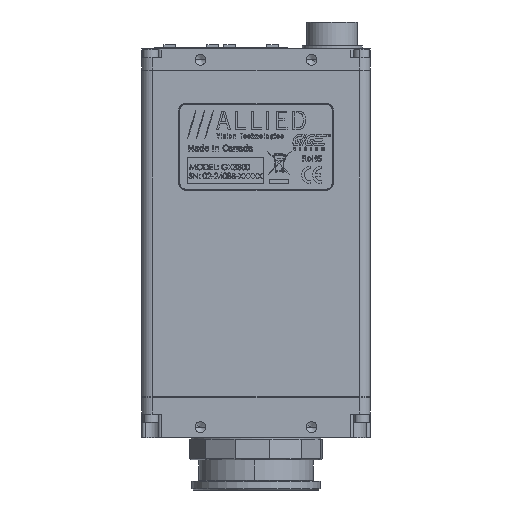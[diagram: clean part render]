
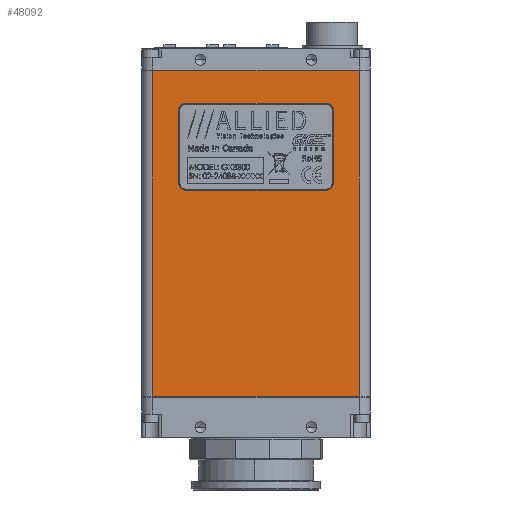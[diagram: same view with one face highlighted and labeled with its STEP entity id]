
A CAD part, front view. The second image highlights one B-rep face of the part: STEP entity #48092.
In plain terms, the highlighted planar face has unit normal (0, -1, 0).
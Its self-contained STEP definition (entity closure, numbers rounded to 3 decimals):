
#2313 = LINE ( 'NONE', #178587, #91215 ) ;
#5317 = CARTESIAN_POINT ( 'NONE',  ( -18.034, -10.16, 28.893 ) ) ;
#5537 = EDGE_CURVE ( 'NONE', #165829, #40818, #207919, .T. ) ;
#5722 = DIRECTION ( 'NONE',  ( 0., 0., 1. ) ) ;
#6026 = ORIENTED_EDGE ( 'NONE', *, *, #111384, .T. ) ;
#8346 = DIRECTION ( 'NONE',  ( 0., 1., 0. ) ) ;
#9512 = EDGE_CURVE ( 'NONE', #211888, #41053, #110659, .T. ) ;
#10659 = CARTESIAN_POINT ( 'NONE',  ( 24.13, -10.16, 38.1 ) ) ;
#12215 = EDGE_LOOP ( 'NONE', ( #6026, #124005, #27452, #200185, #62209, #182395, #167118, #90893 ) ) ;
#13330 = CARTESIAN_POINT ( 'NONE',  ( 24.13, -10.16, -92.399 ) ) ;
#19308 = FACE_OUTER_BOUND ( 'NONE', #89035, .T. ) ;
#24024 = CIRCLE ( 'NONE', #51829, 1.587 ) ;
#24566 = LINE ( 'NONE', #76755, #113370 ) ;
#27114 = AXIS2_PLACEMENT_3D ( 'NONE', #68994, #185676, #85811 ) ;
#27452 = ORIENTED_EDGE ( 'NONE', *, *, #166122, .T. ) ;
#30177 = DIRECTION ( 'NONE',  ( 1., 0., 0. ) ) ;
#36132 = VECTOR ( 'NONE', #77805, 1000. ) ;
#36245 = CARTESIAN_POINT ( 'NONE',  ( -18.034, -10.16, 11.748 ) ) ;
#36857 = DIRECTION ( 'NONE',  ( 0., 1., 0. ) ) ;
#37773 = CIRCLE ( 'NONE', #27114, 1.587 ) ;
#37884 = ORIENTED_EDGE ( 'NONE', *, *, #9512, .T. ) ;
#39915 = ORIENTED_EDGE ( 'NONE', *, *, #189407, .T. ) ;
#40818 = VERTEX_POINT ( 'NONE', #5317 ) ;
#41053 = VERTEX_POINT ( 'NONE', #113350 ) ;
#41368 = CARTESIAN_POINT ( 'NONE',  ( 24.13, -10.16, -38.1 ) ) ;
#43018 = EDGE_CURVE ( 'NONE', #192965, #210902, #2313, .T. ) ;
#43306 = EDGE_CURVE ( 'NONE', #96098, #182275, #64813, .T. ) ;
#44751 = EDGE_CURVE ( 'NONE', #215147, #165829, #37773, .T. ) ;
#48092 = ADVANCED_FACE ( 'NONE', ( #19308, #191662 ), #63051, .T. ) ;
#51829 = AXIS2_PLACEMENT_3D ( 'NONE', #108445, #8346, #125206 ) ;
#56958 = CARTESIAN_POINT ( 'NONE',  ( 24.13, -10.16, -38.1 ) ) ;
#60885 = EDGE_CURVE ( 'NONE', #159336, #96098, #149125, .T. ) ;
#62209 = ORIENTED_EDGE ( 'NONE', *, *, #43306, .T. ) ;
#63051 = PLANE ( 'NONE',  #118865 ) ;
#64813 = CIRCLE ( 'NONE', #116340, 1.587 ) ;
#68994 = CARTESIAN_POINT ( 'NONE',  ( -16.447, -10.16, 11.748 ) ) ;
#74791 = VECTOR ( 'NONE', #5722, 1000. ) ;
#76755 = CARTESIAN_POINT ( 'NONE',  ( 24.13, -10.16, -92.399 ) ) ;
#76869 = CARTESIAN_POINT ( 'NONE',  ( -16.447, -10.16, 28.893 ) ) ;
#77805 = DIRECTION ( 'NONE',  ( -1., 0., 0. ) ) ;
#77905 = DIRECTION ( 'NONE',  ( 1., 0., 0. ) ) ;
#85811 = DIRECTION ( 'NONE',  ( 1., 0., 0. ) ) ;
#89035 = EDGE_LOOP ( 'NONE', ( #37884, #39915, #99380, #133704 ) ) ;
#89123 = CARTESIAN_POINT ( 'NONE',  ( -24.13, -10.16, -92.399 ) ) ;
#90893 = ORIENTED_EDGE ( 'NONE', *, *, #5537, .T. ) ;
#91215 = VECTOR ( 'NONE', #77905, 1000. ) ;
#93682 = DIRECTION ( 'NONE',  ( 1., 0., 0. ) ) ;
#95231 = VERTEX_POINT ( 'NONE', #115427 ) ;
#96098 = VERTEX_POINT ( 'NONE', #215666 ) ;
#99121 = CARTESIAN_POINT ( 'NONE',  ( 16.447, -10.16, 10.16 ) ) ;
#99380 = ORIENTED_EDGE ( 'NONE', *, *, #109402, .T. ) ;
#104793 = VECTOR ( 'NONE', #195851, 1000. ) ;
#108445 = CARTESIAN_POINT ( 'NONE',  ( 16.447, -10.16, 28.893 ) ) ;
#109402 = EDGE_CURVE ( 'NONE', #95231, #164504, #120492, .T. ) ;
#110659 = LINE ( 'NONE', #202672, #154980 ) ;
#111384 = EDGE_CURVE ( 'NONE', #40818, #192965, #215995, .T. ) ;
#113350 = CARTESIAN_POINT ( 'NONE',  ( -24.13, -10.16, 38.1 ) ) ;
#113370 = VECTOR ( 'NONE', #193533, 1000. ) ;
#113870 = LINE ( 'NONE', #89123, #158173 ) ;
#115427 = CARTESIAN_POINT ( 'NONE',  ( -24.13, -10.16, -38.1 ) ) ;
#116340 = AXIS2_PLACEMENT_3D ( 'NONE', #136846, #36857, #153585 ) ;
#117338 = EDGE_CURVE ( 'NONE', #164504, #211888, #24566, .T. ) ;
#118865 = AXIS2_PLACEMENT_3D ( 'NONE', #13330, #130199, #30177 ) ;
#120492 = LINE ( 'NONE', #56958, #164898 ) ;
#121966 = CARTESIAN_POINT ( 'NONE',  ( -16.447, -10.16, 30.48 ) ) ;
#124005 = ORIENTED_EDGE ( 'NONE', *, *, #43018, .T. ) ;
#125206 = DIRECTION ( 'NONE',  ( 1., 0., 0. ) ) ;
#130199 = DIRECTION ( 'NONE',  ( 0., -1., 0. ) ) ;
#133704 = ORIENTED_EDGE ( 'NONE', *, *, #117338, .T. ) ;
#136846 = CARTESIAN_POINT ( 'NONE',  ( 16.447, -10.16, 11.748 ) ) ;
#149125 = LINE ( 'NONE', #212589, #104793 ) ;
#152336 = DIRECTION ( 'NONE',  ( -1., 0., 0. ) ) ;
#153038 = EDGE_CURVE ( 'NONE', #182275, #215147, #164088, .T. ) ;
#153585 = DIRECTION ( 'NONE',  ( 1., 0., 0. ) ) ;
#154980 = VECTOR ( 'NONE', #152336, 1000. ) ;
#156888 = DIRECTION ( 'NONE',  ( 1., 0., 0. ) ) ;
#158173 = VECTOR ( 'NONE', #189040, 1000. ) ;
#158525 = AXIS2_PLACEMENT_3D ( 'NONE', #76869, #193652, #93682 ) ;
#159336 = VERTEX_POINT ( 'NONE', #188667 ) ;
#164088 = LINE ( 'NONE', #177743, #36132 ) ;
#164504 = VERTEX_POINT ( 'NONE', #41368 ) ;
#164898 = VECTOR ( 'NONE', #156888, 1000. ) ;
#165829 = VERTEX_POINT ( 'NONE', #36245 ) ;
#166122 = EDGE_CURVE ( 'NONE', #210902, #159336, #24024, .T. ) ;
#167118 = ORIENTED_EDGE ( 'NONE', *, *, #44751, .T. ) ;
#177743 = CARTESIAN_POINT ( 'NONE',  ( 24.13, -10.16, 10.16 ) ) ;
#178587 = CARTESIAN_POINT ( 'NONE',  ( 24.13, -10.16, 30.48 ) ) ;
#182275 = VERTEX_POINT ( 'NONE', #99121 ) ;
#182395 = ORIENTED_EDGE ( 'NONE', *, *, #153038, .T. ) ;
#184859 = CARTESIAN_POINT ( 'NONE',  ( -16.447, -10.16, 10.16 ) ) ;
#185676 = DIRECTION ( 'NONE',  ( 0., 1., 0. ) ) ;
#188667 = CARTESIAN_POINT ( 'NONE',  ( 18.034, -10.16, 28.893 ) ) ;
#189040 = DIRECTION ( 'NONE',  ( 0., 0., -1. ) ) ;
#189407 = EDGE_CURVE ( 'NONE', #41053, #95231, #113870, .T. ) ;
#191662 = FACE_BOUND ( 'NONE', #12215, .T. ) ;
#192965 = VERTEX_POINT ( 'NONE', #121966 ) ;
#193533 = DIRECTION ( 'NONE',  ( 0., 0., 1. ) ) ;
#193652 = DIRECTION ( 'NONE',  ( 0., 1., 0. ) ) ;
#195851 = DIRECTION ( 'NONE',  ( 0., 0., -1. ) ) ;
#200185 = ORIENTED_EDGE ( 'NONE', *, *, #60885, .T. ) ;
#202672 = CARTESIAN_POINT ( 'NONE',  ( 24.13, -10.16, 38.1 ) ) ;
#205724 = CARTESIAN_POINT ( 'NONE',  ( -18.034, -10.16, -92.399 ) ) ;
#207919 = LINE ( 'NONE', #205724, #74791 ) ;
#210902 = VERTEX_POINT ( 'NONE', #211342 ) ;
#211342 = CARTESIAN_POINT ( 'NONE',  ( 16.447, -10.16, 30.48 ) ) ;
#211888 = VERTEX_POINT ( 'NONE', #10659 ) ;
#212589 = CARTESIAN_POINT ( 'NONE',  ( 18.034, -10.16, -92.399 ) ) ;
#215147 = VERTEX_POINT ( 'NONE', #184859 ) ;
#215666 = CARTESIAN_POINT ( 'NONE',  ( 18.034, -10.16, 11.748 ) ) ;
#215995 = CIRCLE ( 'NONE', #158525, 1.587 ) ;
